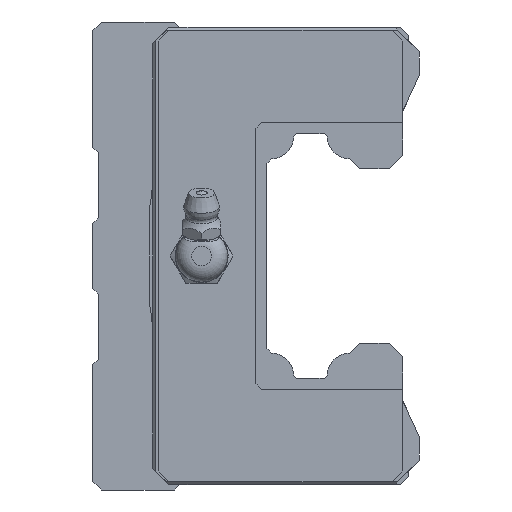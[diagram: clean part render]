
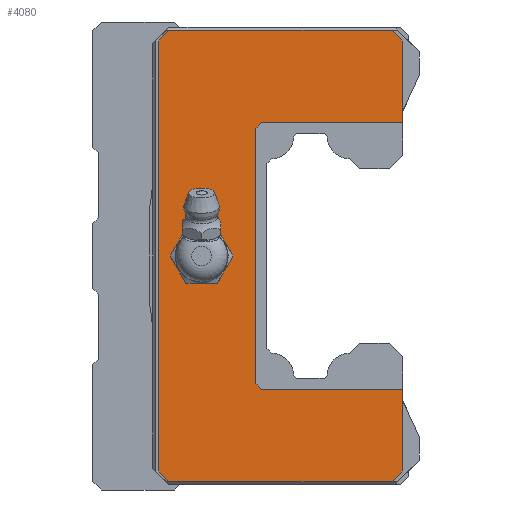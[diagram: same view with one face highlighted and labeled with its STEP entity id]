
A CAD part, left-side view. The second image highlights one B-rep face of the part: STEP entity #4080.
In plain terms, the highlighted planar face has unit normal (-1, 0, 0).
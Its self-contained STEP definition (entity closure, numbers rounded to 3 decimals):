
#265=LINE('',#6237,#741);
#270=LINE('',#6247,#746);
#419=LINE('',#6580,#895);
#423=LINE('',#6587,#899);
#424=LINE('',#6589,#900);
#426=LINE('',#6593,#902);
#429=LINE('',#6598,#905);
#431=LINE('',#6602,#907);
#433=LINE('',#6606,#909);
#447=LINE('',#6657,#923);
#448=LINE('',#6660,#924);
#449=LINE('',#6661,#925);
#450=LINE('',#6663,#926);
#451=LINE('',#6665,#927);
#741=VECTOR('',#4912,1000.);
#746=VECTOR('',#4919,1000.);
#895=VECTOR('',#5210,1000.);
#899=VECTOR('',#5216,1000.);
#900=VECTOR('',#5219,1000.);
#902=VECTOR('',#5223,1000.);
#905=VECTOR('',#5228,1000.);
#907=VECTOR('',#5232,1000.);
#909=VECTOR('',#5236,1000.);
#923=VECTOR('',#5298,1000.);
#924=VECTOR('',#5299,1000.);
#925=VECTOR('',#5300,1000.);
#926=VECTOR('',#5301,1000.);
#927=VECTOR('',#5302,1000.);
#1115=PLANE('',#4387);
#1248=CIRCLE('',#4388,4.864);
#2054=ORIENTED_EDGE('',*,*,#2874,.T.);
#2055=ORIENTED_EDGE('',*,*,#2875,.T.);
#2056=ORIENTED_EDGE('',*,*,#2876,.T.);
#2057=ORIENTED_EDGE('',*,*,#2664,.T.);
#2058=ORIENTED_EDGE('',*,*,#2842,.T.);
#2059=ORIENTED_EDGE('',*,*,#2838,.T.);
#2060=ORIENTED_EDGE('',*,*,#2852,.T.);
#2061=ORIENTED_EDGE('',*,*,#2850,.T.);
#2062=ORIENTED_EDGE('',*,*,#2848,.T.);
#2063=ORIENTED_EDGE('',*,*,#2845,.T.);
#2064=ORIENTED_EDGE('',*,*,#2843,.T.);
#2065=ORIENTED_EDGE('',*,*,#2669,.T.);
#2066=ORIENTED_EDGE('',*,*,#2877,.T.);
#2067=ORIENTED_EDGE('',*,*,#2878,.T.);
#2068=ORIENTED_EDGE('',*,*,#2879,.T.);
#2664=EDGE_CURVE('',#3170,#3169,#265,.T.);
#2669=EDGE_CURVE('',#3174,#3173,#270,.T.);
#2838=EDGE_CURVE('',#3287,#3288,#419,.T.);
#2842=EDGE_CURVE('',#3169,#3287,#423,.T.);
#2843=EDGE_CURVE('',#3289,#3174,#424,.T.);
#2845=EDGE_CURVE('',#3290,#3289,#426,.T.);
#2848=EDGE_CURVE('',#3291,#3290,#429,.T.);
#2850=EDGE_CURVE('',#3292,#3291,#431,.T.);
#2852=EDGE_CURVE('',#3288,#3292,#433,.T.);
#2874=EDGE_CURVE('',#3305,#3305,#1248,.T.);
#2875=EDGE_CURVE('',#3306,#3307,#447,.T.);
#2876=EDGE_CURVE('',#3307,#3170,#448,.T.);
#2877=EDGE_CURVE('',#3173,#3308,#449,.T.);
#2878=EDGE_CURVE('',#3308,#3309,#450,.T.);
#2879=EDGE_CURVE('',#3309,#3306,#451,.T.);
#3169=VERTEX_POINT('',#6236);
#3170=VERTEX_POINT('',#6238);
#3173=VERTEX_POINT('',#6246);
#3174=VERTEX_POINT('',#6248);
#3287=VERTEX_POINT('',#6581);
#3288=VERTEX_POINT('',#6582);
#3289=VERTEX_POINT('',#6590);
#3290=VERTEX_POINT('',#6594);
#3291=VERTEX_POINT('',#6599);
#3292=VERTEX_POINT('',#6603);
#3305=VERTEX_POINT('',#6656);
#3306=VERTEX_POINT('',#6658);
#3307=VERTEX_POINT('',#6659);
#3308=VERTEX_POINT('',#6662);
#3309=VERTEX_POINT('',#6664);
#3551=EDGE_LOOP('',(#2054));
#3552=EDGE_LOOP('',(#2055,#2056,#2057,#2058,#2059,#2060,#2061,#2062,#2063,
#2064,#2065,#2066,#2067,#2068));
#3822=FACE_BOUND('',#3551,.T.);
#3823=FACE_BOUND('',#3552,.T.);
#4080=ADVANCED_FACE('',(#3822,#3823),#1115,.F.);
#4387=AXIS2_PLACEMENT_3D('',#6654,#5294,#5295);
#4388=AXIS2_PLACEMENT_3D('',#6655,#5296,#5297);
#4912=DIRECTION('',(0.,0.,1.));
#4919=DIRECTION('',(0.,0.,1.));
#5210=DIRECTION('',(0.,1.,0.));
#5216=DIRECTION('',(0.,0.707,0.707));
#5219=DIRECTION('',(0.,-0.707,0.707));
#5223=DIRECTION('',(0.,-1.,0.));
#5228=DIRECTION('',(0.,-0.707,-0.707));
#5232=DIRECTION('',(0.,0.,-1.));
#5236=DIRECTION('',(0.,0.707,-0.707));
#5294=DIRECTION('',(1.,0.,0.));
#5295=DIRECTION('',(0.,0.,-1.));
#5296=DIRECTION('',(1.,0.,0.));
#5297=DIRECTION('',(0.,0.,-1.));
#5298=DIRECTION('',(0.,-0.707,0.707));
#5299=DIRECTION('',(0.,-1.,0.));
#5300=DIRECTION('',(0.,1.,0.));
#5301=DIRECTION('',(0.,0.707,0.707));
#5302=DIRECTION('',(0.,0.,1.));
#6236=CARTESIAN_POINT('',(-83.9,3.,39.5));
#6237=CARTESIAN_POINT('',(-83.9,3.,39.5));
#6238=CARTESIAN_POINT('',(-83.9,3.,24.5));
#6246=CARTESIAN_POINT('',(-83.9,3.,-24.5));
#6247=CARTESIAN_POINT('',(-83.9,3.,39.5));
#6248=CARTESIAN_POINT('',(-83.9,3.,-39.5));
#6580=CARTESIAN_POINT('',(-83.9,46.,41.5));
#6581=CARTESIAN_POINT('',(-83.9,5.,41.5));
#6582=CARTESIAN_POINT('',(-83.9,46.,41.5));
#6587=CARTESIAN_POINT('',(-83.9,5.,41.5));
#6589=CARTESIAN_POINT('',(-83.9,3.,-39.5));
#6590=CARTESIAN_POINT('',(-83.9,5.,-41.5));
#6593=CARTESIAN_POINT('',(-83.9,5.,-41.5));
#6594=CARTESIAN_POINT('',(-83.9,46.,-41.5));
#6598=CARTESIAN_POINT('',(-83.9,46.,-41.5));
#6599=CARTESIAN_POINT('',(-83.9,48.,-39.5));
#6602=CARTESIAN_POINT('',(-83.9,48.,-39.5));
#6603=CARTESIAN_POINT('',(-83.9,48.,39.5));
#6606=CARTESIAN_POINT('',(-83.9,48.,39.5));
#6654=CARTESIAN_POINT('',(-83.9,0.,0.));
#6655=CARTESIAN_POINT('',(-83.9,40.,0.));
#6656=CARTESIAN_POINT('',(-83.9,40.,-4.864));
#6657=CARTESIAN_POINT('',(-83.9,30.,23.5));
#6658=CARTESIAN_POINT('',(-83.9,30.,23.5));
#6659=CARTESIAN_POINT('',(-83.9,29.,24.5));
#6660=CARTESIAN_POINT('',(-83.9,29.,24.5));
#6661=CARTESIAN_POINT('',(-83.9,3.,-24.5));
#6662=CARTESIAN_POINT('',(-83.9,29.,-24.5));
#6663=CARTESIAN_POINT('',(-83.9,29.,-24.5));
#6664=CARTESIAN_POINT('',(-83.9,30.,-23.5));
#6665=CARTESIAN_POINT('',(-83.9,30.,-23.5));
